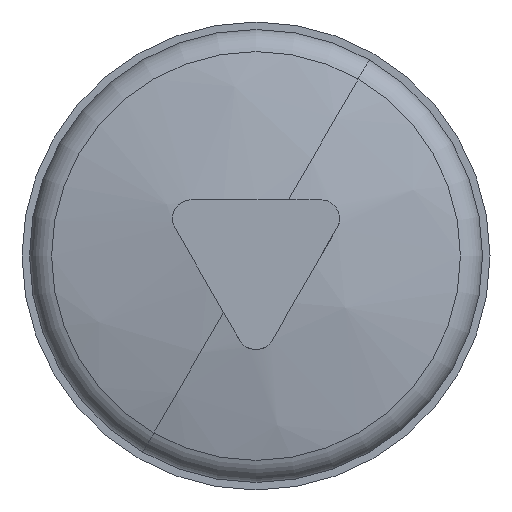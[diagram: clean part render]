
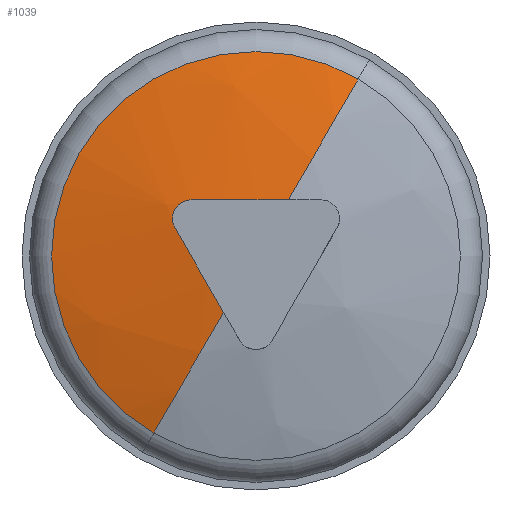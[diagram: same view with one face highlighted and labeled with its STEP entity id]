
A CAD part, front view. The second image highlights one B-rep face of the part: STEP entity #1039.
In plain terms, the highlighted spherical face has radius 20.785 mm.
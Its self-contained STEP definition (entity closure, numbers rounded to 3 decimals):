
#16 = CARTESIAN_POINT ( 'NONE',  ( -0.433, -3.973, 2.25 ) ) ;
#61 = EDGE_CURVE ( 'NONE', #638, #806, #1857, .T. ) ;
#64 = DIRECTION ( 'NONE',  ( -1., 0., 0. ) ) ;
#91 = CIRCLE ( 'NONE', #1042, 20.785 ) ;
#96 = DIRECTION ( 'NONE',  ( 1., 0., 0. ) ) ;
#100 = CARTESIAN_POINT ( 'NONE',  ( 5.46, -3.37, 0. ) ) ;
#199 = CARTESIAN_POINT ( 'NONE',  ( -0.389, -3.966, 2.326 ) ) ;
#259 = VERTEX_POINT ( 'NONE', #1486 ) ;
#290 = ORIENTED_EDGE ( 'NONE', *, *, #61, .T. ) ;
#313 = CARTESIAN_POINT ( 'NONE',  ( 0.389, -3.966, 2.326 ) ) ;
#336 = CARTESIAN_POINT ( 'NONE',  ( 0.433, -3.973, 2.25 ) ) ;
#345 = CARTESIAN_POINT ( 'NONE',  ( -0.175, -3.951, 2.476 ) ) ;
#369 = DIRECTION ( 'NONE',  ( 0.5, 0., 0.866 ) ) ;
#398 = VERTEX_POINT ( 'NONE', #336 ) ;
#462 = ORIENTED_EDGE ( 'NONE', *, *, #542, .T. ) ;
#542 = EDGE_CURVE ( 'NONE', #1762, #259, #660, .T. ) ;
#588 = CARTESIAN_POINT ( 'NONE',  ( -5.46, -3.37, 0. ) ) ;
#638 = VERTEX_POINT ( 'NONE', #100 ) ;
#649 = CARTESIAN_POINT ( 'NONE',  ( -0.326, -3.96, 2.389 ) ) ;
#655 = FACE_OUTER_BOUND ( 'NONE', #1606, .T. ) ;
#660 = CIRCLE ( 'NONE', #1476, 20.731 ) ;
#695 = CIRCLE ( 'NONE', #1553, 20.785 ) ;
#781 = CARTESIAN_POINT ( 'NONE',  ( 1.732, -4.028, 0. ) ) ;
#806 = VERTEX_POINT ( 'NONE', #588 ) ;
#837 = AXIS2_PLACEMENT_3D ( 'NONE', #1273, #1758, #1132 ) ;
#840 = DIRECTION ( 'NONE',  ( 0., 0., 1. ) ) ;
#874 = EDGE_CURVE ( 'NONE', #259, #398, #957, .T. ) ;
#898 = CARTESIAN_POINT ( 'NONE',  ( 0., 16.685, 0. ) ) ;
#957 = B_SPLINE_CURVE_WITH_KNOTS ( 'NONE', 3,
 ( #16, #199, #649, #345, #1708, #1079, #1072, #1842, #313, #1679 ),
 .UNSPECIFIED., .F., .F.,
 ( 4, 2, 2, 2, 4 ),
 ( 0., 0., 0.001, 0.001, 0.001 ),
 .UNSPECIFIED. ) ;
#1038 = DIRECTION ( 'NONE',  ( 0.5, 0., -0.866 ) ) ;
#1039 = ADVANCED_FACE ( 'NONE', ( #655 ), #1259, .T. ) ;
#1040 = AXIS2_PLACEMENT_3D ( 'NONE', #1491, #1628, #1038 ) ;
#1042 = AXIS2_PLACEMENT_3D ( 'NONE', #898, #1472, #96 ) ;
#1072 = CARTESIAN_POINT ( 'NONE',  ( 0.175, -3.951, 2.477 ) ) ;
#1079 = CARTESIAN_POINT ( 'NONE',  ( 0.088, -3.949, 2.5 ) ) ;
#1092 = ORIENTED_EDGE ( 'NONE', *, *, #874, .T. ) ;
#1132 = DIRECTION ( 'NONE',  ( -1., 0., 0. ) ) ;
#1133 = CIRCLE ( 'NONE', #1040, 20.731 ) ;
#1181 = EDGE_CURVE ( 'NONE', #1762, #806, #695, .T. ) ;
#1247 = EDGE_CURVE ( 'NONE', #398, #1462, #1133, .T. ) ;
#1259 = SPHERICAL_SURFACE ( 'NONE', #1453, 20.785 ) ;
#1273 = CARTESIAN_POINT ( 'NONE',  ( 0., -3.37, 0. ) ) ;
#1281 = CARTESIAN_POINT ( 'NONE',  ( -1.299, 16.685, 0.75 ) ) ;
#1312 = EDGE_CURVE ( 'NONE', #1462, #638, #91, .T. ) ;
#1321 = DIRECTION ( 'NONE',  ( 0., 0., -1. ) ) ;
#1453 = AXIS2_PLACEMENT_3D ( 'NONE', #1729, #840, #64 ) ;
#1462 = VERTEX_POINT ( 'NONE', #781 ) ;
#1472 = DIRECTION ( 'NONE',  ( 0., 0., 1. ) ) ;
#1476 = AXIS2_PLACEMENT_3D ( 'NONE', #1281, #1742, #369 ) ;
#1486 = CARTESIAN_POINT ( 'NONE',  ( -0.433, -3.973, 2.25 ) ) ;
#1491 = CARTESIAN_POINT ( 'NONE',  ( 1.299, 16.685, 0.75 ) ) ;
#1553 = AXIS2_PLACEMENT_3D ( 'NONE', #1809, #1321, #1779 ) ;
#1606 = EDGE_LOOP ( 'NONE', ( #1895, #1833, #290, #1765, #462, #1092 ) ) ;
#1628 = DIRECTION ( 'NONE',  ( 0.866, 0., 0.5 ) ) ;
#1679 = CARTESIAN_POINT ( 'NONE',  ( 0.433, -3.973, 2.25 ) ) ;
#1708 = CARTESIAN_POINT ( 'NONE',  ( -0.088, -3.949, 2.5 ) ) ;
#1729 = CARTESIAN_POINT ( 'NONE',  ( 0., 16.685, 0. ) ) ;
#1742 = DIRECTION ( 'NONE',  ( -0.866, 0., 0.5 ) ) ;
#1758 = DIRECTION ( 'NONE',  ( 0., -1., 0. ) ) ;
#1762 = VERTEX_POINT ( 'NONE', #1768 ) ;
#1765 = ORIENTED_EDGE ( 'NONE', *, *, #1181, .F. ) ;
#1768 = CARTESIAN_POINT ( 'NONE',  ( -1.732, -4.028, 0. ) ) ;
#1779 = DIRECTION ( 'NONE',  ( -1., 0., 0. ) ) ;
#1809 = CARTESIAN_POINT ( 'NONE',  ( 0., 16.685, 0. ) ) ;
#1833 = ORIENTED_EDGE ( 'NONE', *, *, #1312, .T. ) ;
#1842 = CARTESIAN_POINT ( 'NONE',  ( 0.325, -3.96, 2.39 ) ) ;
#1857 = CIRCLE ( 'NONE', #837, 5.46 ) ;
#1895 = ORIENTED_EDGE ( 'NONE', *, *, #1247, .T. ) ;
